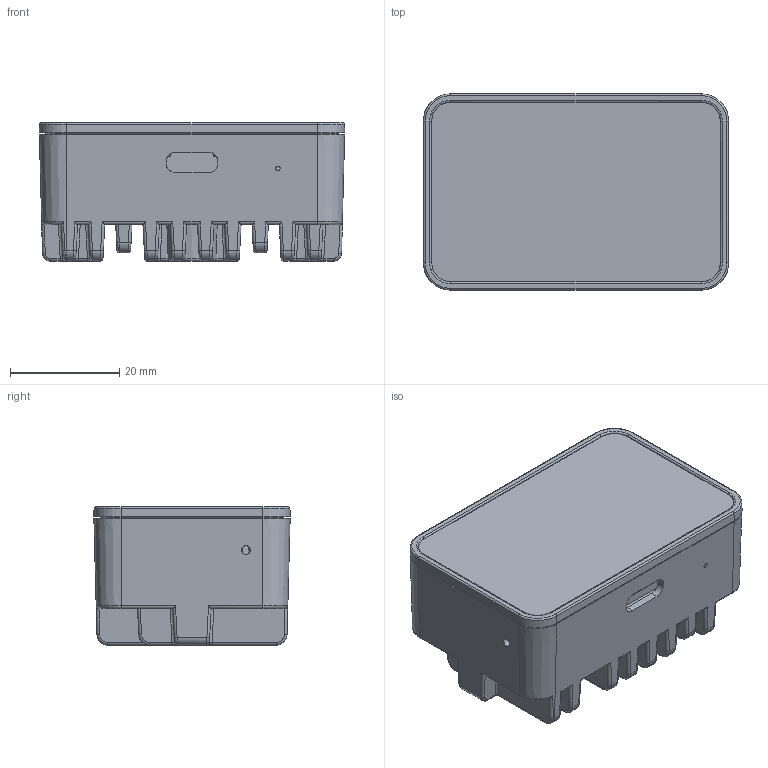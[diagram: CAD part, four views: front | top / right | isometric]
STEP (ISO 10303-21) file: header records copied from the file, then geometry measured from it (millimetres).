
FILE_DESCRIPTION (( 'STEP AP214' ), '1' );
FILE_NAME ('OAK-D-SR_ME-ASSY_05DEC2022.STEP', '2022-12-05T10:12:41', ( '' ), ( '' ), 'SwSTEP 2.0', 'SolidWorks 2022', '' );
FILE_SCHEMA (( 'AUTOMOTIVE_DESIGN' ));
Length unit declared in the file: millimetre
Products named in the file (10): SR_Lens-PY058; 611-00020; Lens_adhesive; 606-00020-SR_Front_cover; SR_upper_cover_MODELNX-ARRAGMNTPY74; 606-00021-SR_Back cover_PY074; 602-00009_Phillips Flat Head  M2 x 0.40mm Thread, 14mm Long Screw_92010A802; 609-00012-Lens-cover_explode; 612-00001-TIM_thermal-OAK_D_POE; OAK-D-SR_ME-ASSY_05DEC2022
Assembly tree (13 placements, depth 4):
  OAK-D-SR_ME-ASSY_05DEC2022
    SR_upper_cover_MODELNX-ARRAGMNTPY74
      606-00020-SR_Front_cover
      609-00012-Lens-cover_explode
        SR_Lens-PY058
        Lens_adhesive
      611-00020  x2
    612-00001-TIM_thermal-OAK_D_POE
    606-00021-SR_Back cover_PY074
    602-00009_Phillips Flat Head  M2 x 0.40mm Thread, 14mm Long Screw_92010A802  x4
Bounding box: 56 x 36 x 25.35 mm (x, y, z)
Volume: 21750.9 mm3; surface area: 27775.4 mm2
Topology: 11 solids, 11 shells, 1460 faces, 3811 edges, 2396 vertices
Faces by surface type: cylinder 636, plane 355, bspline 277, cone 160, torus 32
Entity records: 49630 total; most frequent: CARTESIAN_POINT 24043, ORIENTED_EDGE 5826, DIRECTION 4619, EDGE_CURVE 2913, VERTEX_POINT 1800, AXIS2_PLACEMENT_3D 1701, VECTOR 1217, LINE 1217
